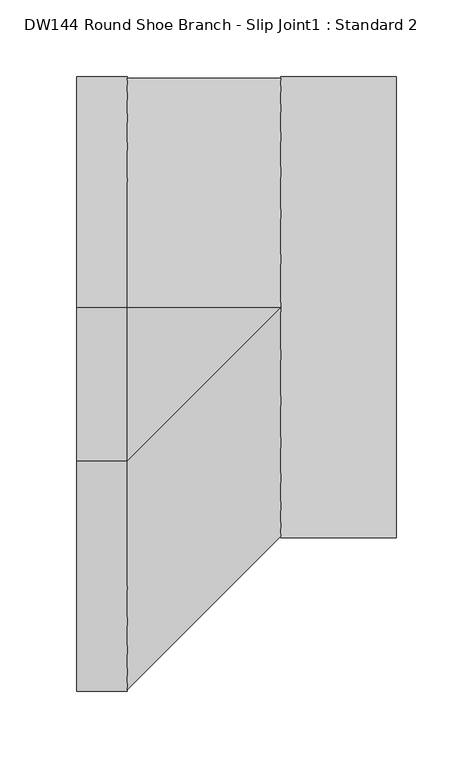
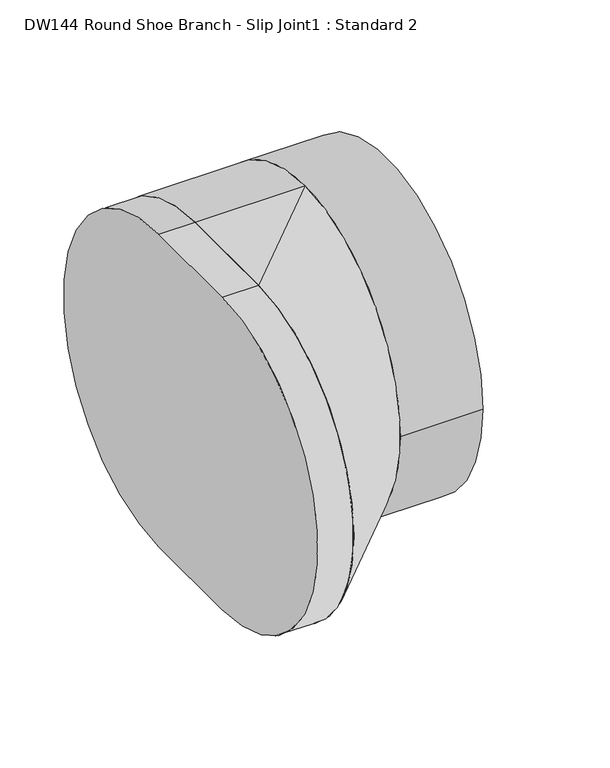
"""IFC4 building model written with IfcOpenShell, lengths in millimetres: duct fitting geometry, DW144 Round Shoe Branch - Slip Joint1 : Standard 2."""

from ifc_helpers import new_model, si_unit, point, frame, frame_2d, origin, origin_2d, place, context, project, spatial, polyline, circle_curve, trimmed, segment, composite_curve, outline, extrude, source, transform, mapped, element, save
from ifc_brep_helpers import plane_surface, cylinder_surface, extruded_surface, advanced_brep


def dw144_round_shoe_branch_slip_joint1_standard_2_6543393f(model_context):
    return source(origin(), model_context, "Body", "SolidModel", [
        extrude(outline(composite_curve([segment(trimmed(circle_curve(origin_2d(), 150.0), [point((-150.0, 0.0))], [point((150.0, 0.0))], False, "CARTESIAN"), True, "CONTINUOUS"), segment(trimmed(circle_curve(origin_2d(), 150.0), [point((150.0, 0.0))], [point((-150.0, 0.0))], False, "CARTESIAN"), True, "CONTINUOUS")], self_intersect=False)), frame((100.0, 0.0, 0.0), z_axis=(1.0, 0.0, 0.0), x_axis=(0.0, 1.0, 0.0)), (0.0, 0.0, 1.0), 75.0),
        advanced_brep(
        [(100.0, 0.0, -150.0), (100.0, 0.0, 150.0), (0.0, 0.0, -150.0), (0.0, -100.0, -150.0), (0.0, -100.0, 150.0), (0.0, 0.0, 150.0)],
        [
            (0, 1, circle_curve(frame((100.0, 0.0, 0.0), z_axis=(1.0, 0.0, 0.0), x_axis=(0.0, 1.0, 0.0)), 150.0)),
            (1, 0, circle_curve(frame((100.0, 0.0, 0.0), z_axis=(1.0, 0.0, 0.0), x_axis=(0.0, 1.0, 0.0)), 150.0)),
            (2, 3),
            (3, 4, circle_curve(frame((0.0, -100.0, 0.0), z_axis=(-1.0, 0.0, 0.0), x_axis=(0.0, 1.0, 0.0)), 150.0)),
            (4, 5),
            (5, 2, circle_curve(frame((0.0, 0.0, 0.0), z_axis=(-1.0, 0.0, 0.0), x_axis=(0.0, 1.0, 0.0)), 150.0)),
            (5, 1),
            (0, 2),
            (4, 1),
            (3, 0),
        ],
        [
            plane_surface(frame((100.0, 0.0, 0.0), z_axis=(1.0, 0.0, 0.0), x_axis=(0.0, 1.0, 0.0))),
            plane_surface(frame((0.0, -50.0, 0.0), z_axis=(-1.0, 0.0, 0.0), x_axis=(0.0, 1.0, 0.0))),
            cylinder_surface(frame((0.0, 0.0, 0.0), z_axis=(1.0, 0.0, 0.0), x_axis=(0.0, 1.0, 0.0)), 150.0),
            plane_surface(frame((0.0, -50.0, 150.0), z_axis=(0.0, 0.0, 1.0), x_axis=(0.0, -1.0, 0.0))),
            extruded_surface(trimmed(circle_curve(frame((0.0, -100.0, 0.0), z_axis=(1.0, 0.0, 0.0), x_axis=(0.0, 1.0, 0.0)), 150.0), [point((0.0, -100.0, 150.0))], [point((0.0, -100.0, -150.0))], True, "CARTESIAN"), (100.0, 100.0, 0.0), 141.4213562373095),
            plane_surface(frame((0.0, -50.0, -150.0), z_axis=(0.0, 0.0, -1.0), x_axis=(0.0, 1.0, 0.0))),
        ],
        [
            (0, [[1, 2]]),
            (1, [[3, 4, 5, 6]]),
            (2, [[-6, 7, -1, 8]]),
            (3, [[-5, 9, -7]]),
            (4, [[-4, 10, -2, -9]]),
            (5, [[-3, -8, -10]]),
        ],
    ),
        extrude(outline(composite_curve([segment(polyline([(0.0, -150.0), (-100.0, -150.0)]), True, "CONTINUOUS"), segment(trimmed(circle_curve(frame_2d((-100.0, 0.0)), 150.0), [point((-100.0, -150.0))], [point((-100.0, 150.0))], False, "CARTESIAN"), True, "CONTINUOUS"), segment(polyline([(-100.0, 150.0), (0.0, 150.0)]), True, "CONTINUOUS"), segment(trimmed(circle_curve(origin_2d(), 150.0), [point((0.0, 150.0))], [point((0.0, -150.0))], False, "CARTESIAN"), True, "CONTINUOUS")], self_intersect=False)), frame((-32.844551, 0.0, 0.0), z_axis=(1.0, 0.0, 0.0), x_axis=(0.0, 1.0, 0.0)), (0.0, 0.0, 1.0), 32.844551),
    ])


if __name__ == "__main__":
    model = new_model("IFC4")
    model_context = context("Model", 3, world=origin())
    ifc_project = project(units=[si_unit("LENGTHUNIT", "METRE", prefix="MILLI")], contexts=[model_context])
    site = spatial("IfcSite", under=ifc_project)
    building = spatial("IfcBuilding", under=site)
    placement = place(None, origin())
    dw144_round_shoe_branch_slip_joint1_standard_2_shape = dw144_round_shoe_branch_slip_joint1_standard_2_6543393f(model_context)
    element("IfcDuctFitting", 1, ObjectType="DW144 Round Shoe Branch - Slip Joint1 : Standard 2", at=placement, inside=building, context=model_context, shape_type="MappedRepresentation", body=[
        mapped(dw144_round_shoe_branch_slip_joint1_standard_2_shape, transform((0.0, 0.0, 0.0), x_axis=(1.0, 0.0, 0.0), y_axis=(0.0, 1.0, 0.0), z_axis=(0.0, 0.0, 1.0))),
    ])
    save(model, "model.ifc")
